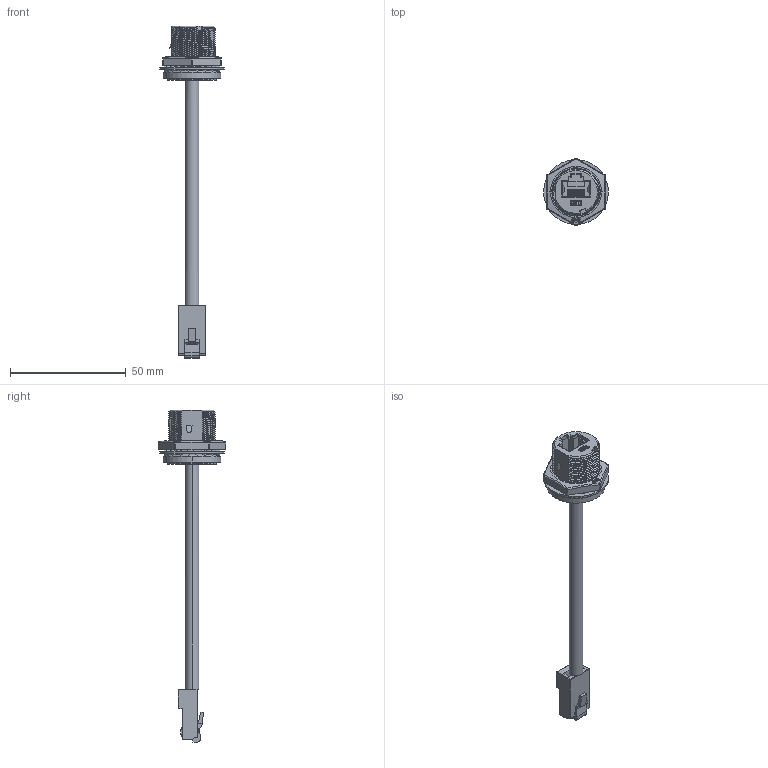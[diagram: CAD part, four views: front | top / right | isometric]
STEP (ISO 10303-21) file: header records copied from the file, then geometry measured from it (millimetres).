
FILE_DESCRIPTION (( 'STEP AP203' ), '1' );
FILE_NAME ('GT225500-03-XX.STEP', '2019-11-05T03:12:48', ( '' ), ( '' ), 'SwSTEP 2.0', 'SolidWorks 2019', '' );
FILE_SCHEMA (( 'CONFIG_CONTROL_DESIGN' ));
Length unit declared in the file: millimetre
Products named in the file (1): GT225500-03-XX
Bounding box: 27.93 x 29.17 x 143.3 mm (x, y, z)
Volume: 11338.3 mm3; surface area: 12031.1 mm2
Topology: 14 solids, 15 shells, 1366 faces, 3702 edges, 2336 vertices
Faces by surface type: plane 833, cylinder 350, bspline 82, torus 75, cone 16, sphere 10
Entity records: 86815 total; most frequent: CARTESIAN_POINT 54327, ORIENTED_EDGE 7388, DIRECTION 6087, EDGE_CURVE 3694, VERTEX_POINT 2334, VECTOR 2249, LINE 2249, AXIS2_PLACEMENT_3D 1919
